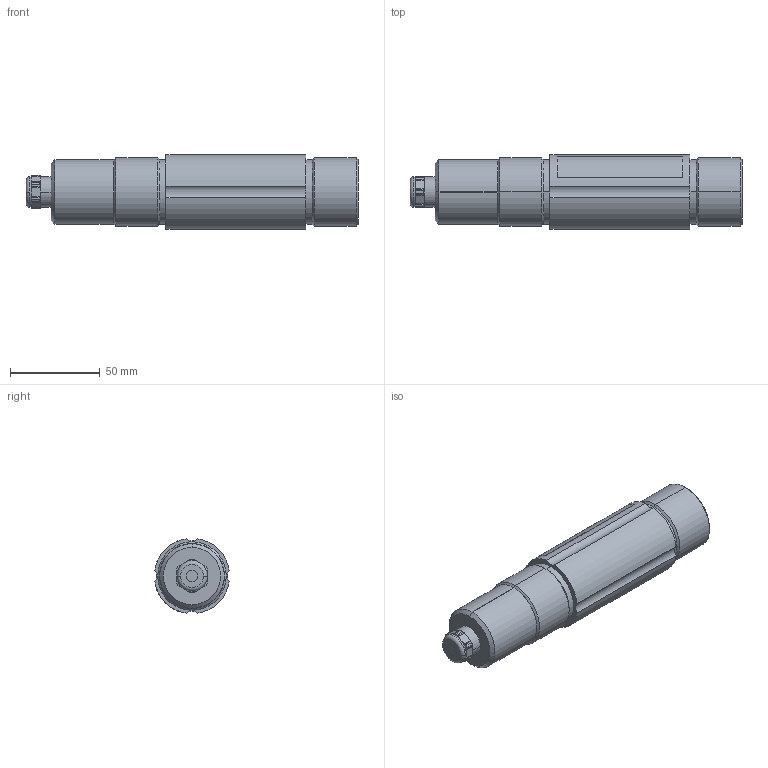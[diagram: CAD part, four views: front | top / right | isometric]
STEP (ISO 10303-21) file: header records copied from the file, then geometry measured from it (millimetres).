
FILE_DESCRIPTION((''),'2;1');
FILE_NAME('90500-LT-TX_SW0001','2009-04-22T',('SRambau'),('RAYTEK'),'PRO/ENGINEER BY PARAMETRIC TECHNOLOGY CORPORATION, 2006460','PRO/ENGINEER BY PARAMETRIC TECHNOLOGY CORPORATION, 2006460','');
FILE_SCHEMA(('CONFIG_CONTROL_DESIGN'));
Length unit declared in the file: millimetre
Products named in the file (1): 90500-LT-TX_SW0001
Bounding box: 185 x 41.51 x 41.51 mm (x, y, z)
Volume: 209896.6 mm3; surface area: 25307.7 mm2
Topology: 1 solids, 2 shells, 114 faces, 280 edges, 176 vertices
Faces by surface type: cylinder 48, plane 42, cone 22, torus 2
Entity records: 3896 total; most frequent: CARTESIAN_POINT 1248, ORIENTED_EDGE 560, DIRECTION 522, EDGE_CURVE 280, AXIS2_PLACEMENT_3D 208, VERTEX_POINT 176, EDGE_LOOP 120, FACE_OUTER_BOUND 114
